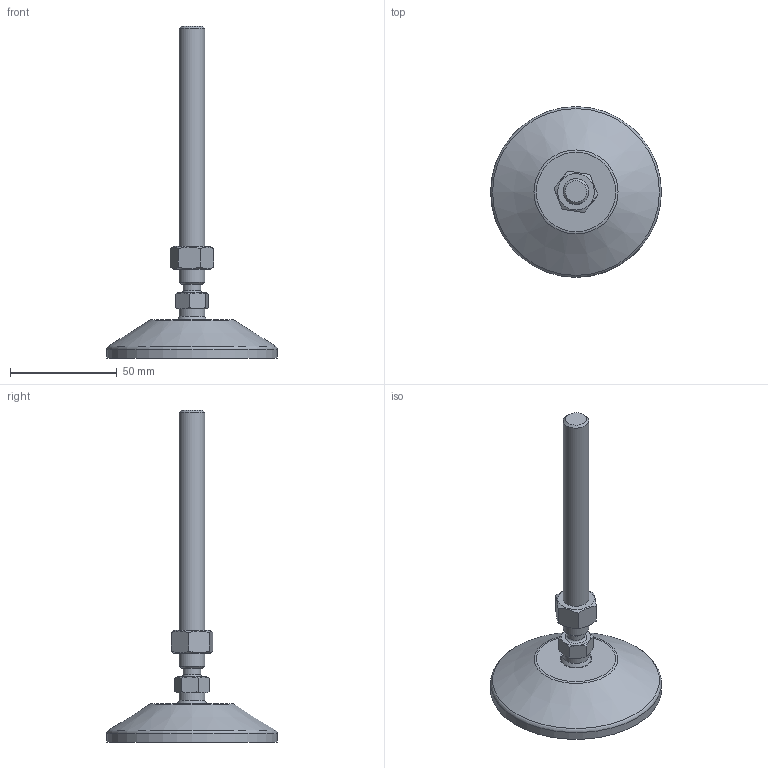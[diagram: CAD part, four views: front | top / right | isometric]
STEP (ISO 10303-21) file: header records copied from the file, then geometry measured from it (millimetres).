
FILE_DESCRIPTION(('STEP AP203'), '1');
FILE_NAME('栖闉罻', '', ('UNSPECIFIED'), ('UNSPECIFIED'), 'C3D Converter', 'C3D Toolkit', '');
FILE_SCHEMA(('CONFIG_CONTROL_DESIGN'));
Length unit declared in the file: millimetre
Products named in the file (4): A00020.112125; A00015.1080
Assembly tree (3 placements, depth 3):
  (unnamed)
    A00020.112125
      (unnamed)
    A00015.1080
Bounding box: 80 x 80 x 155.48 mm (x, y, z)
Volume: 54888.5 mm3; surface area: 23861.9 mm2
Topology: 3 solids, 3 shells, 191 faces, 476 edges, 313 vertices
Faces by surface type: plane 96, cylinder 58, cone 21, torus 14, sphere 2
Full cylindrical faces by diameter (mm): 4 x8, 8.3 x1, 10.647 x1, 12 x2, 14.3 x1, 15 x2, 15.5 x1, 69.3 x1, 80 x1
Entity records: 9541 total; most frequent: CARTESIAN_POINT 3351, DIRECTION 942, ORIENTED_EDGE 880, EDGE_CURVE 440, AXIS2_PLACEMENT_3D 377, VERTEX_POINT 312, EDGE_LOOP 250, FACE_BOUND 207
